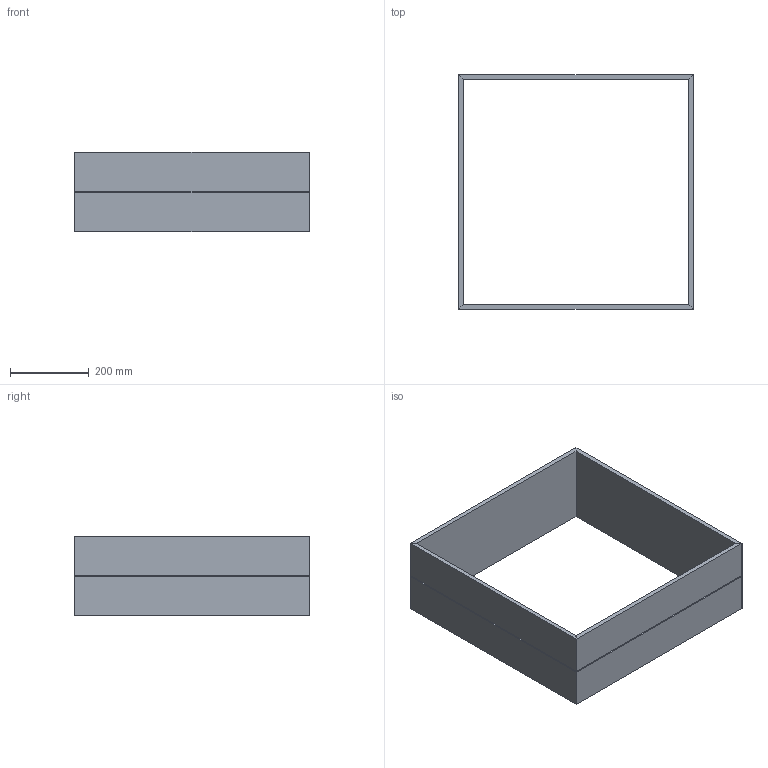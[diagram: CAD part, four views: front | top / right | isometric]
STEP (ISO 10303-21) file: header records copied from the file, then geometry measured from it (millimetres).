
FILE_DESCRIPTION(/* description */ (''),/* implementation_level */ '2;1');
FILE_NAME(/* name */ 'Profile_1',/* time_stamp */ '2026-07-07T12:46:56-05:00',/* author */ (''),/* organization */ (''),/* preprocessor_version */ 'ST-DEVELOPER v19.2',/* originating_system */ 'Rhino 8.32',/* authorisation */ '');
FILE_SCHEMA (('CONFIG_CONTROL_DESIGN'));
Length unit declared in the file: inch
Products named in the file (1): Document
Bounding box: 596.9 x 596.9 x 203.2 mm (x, y, z)
Volume: 5662916.6 mm3; surface area: 1060642.5 mm2
Topology: 4 solids, 4 shells, 40 faces, 96 edges, 64 vertices
Faces by surface type: plane 40
Entity records: 1086 total; most frequent: CARTESIAN_POINT 298, ORIENTED_EDGE 192, EDGE_CURVE 96, B_SPLINE_CURVE_WITH_KNOTS 96, VERTEX_POINT 64, DIRECTION 44, AXIS2_PLACEMENT_3D 42, ADVANCED_FACE 40
